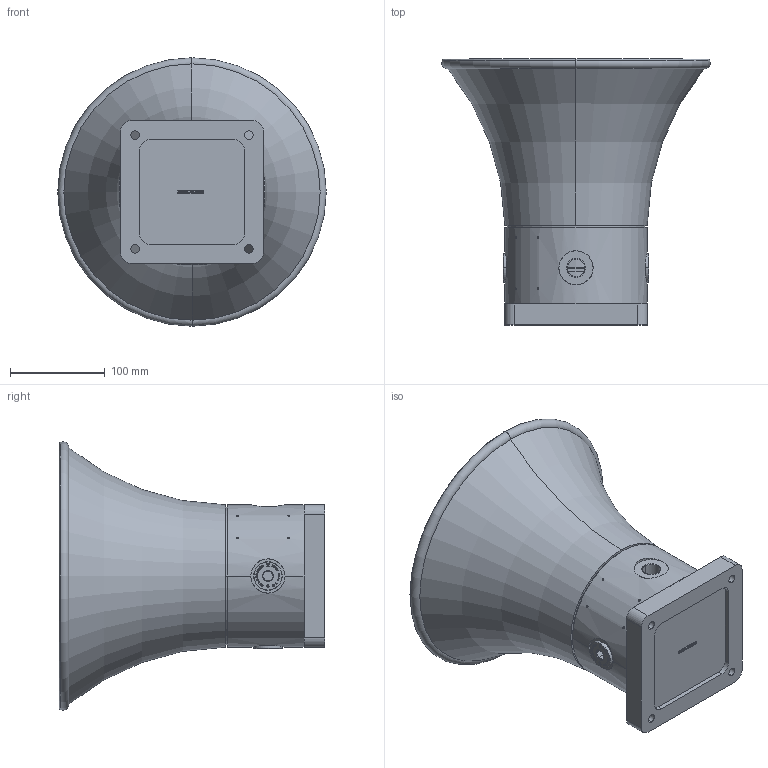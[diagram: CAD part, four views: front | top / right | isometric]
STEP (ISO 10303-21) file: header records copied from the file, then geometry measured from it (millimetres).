
FILE_DESCRIPTION((''),'2;1');
FILE_NAME('0-SD150-W_ASM','2015-12-21T',('Administrator'),(''),'PRO/ENGINEER BY PARAMETRIC TECHNOLOGY CORPORATION, 2008090','PRO/ENGINEER BY PARAMETRIC TECHNOLOGY CORPORATION, 2008090','');
FILE_SCHEMA(('CONFIG_CONTROL_DESIGN'));
Length unit declared in the file: millimetre
Products named in the file (21): 55060250101; 55050250104; 50050250106; 50050250105; 50500280237; 55100110920; M4-15; 50000010301-M5; UPPER-CASE; BASE-COVER; ASM0001_ASM; 50060120606; TEMINAL-4; NEW-SOUNDER-PCB-PLAT; SWITCH-A; SWITCH-B; SWITCH-C; SWITCH-D; NEW-SOUNDER-PCB_ASM; NEW-LOGO; 0-SD150-W_ASM
Assembly tree (32 placements, depth 3):
  0-SD150-W_ASM
    55060250101
    55050250104
    50050250106
    50050250105
    50500280237
    55100110920  x3
    M4-15  x3
    50000010301-M5  x6
    ASM0001_ASM
      UPPER-CASE
      BASE-COVER
    NEW-SOUNDER-PCB_ASM
      50060120606
      TEMINAL-4
      NEW-SOUNDER-PCB-PLAT
      SWITCH-A
      SWITCH-B
      SWITCH-C
      SWITCH-D  x4
    NEW-LOGO
Bounding box: 282.76 x 280 x 282.76 mm (x, y, z)
Volume: 2477549.2 mm3; surface area: 645180.5 mm2
Topology: 30 solids, 73 shells, 8434 faces, 23246 edges, 15356 vertices
Faces by surface type: plane 6979, cylinder 718, torus 323, cone 318, bspline 79, sphere 17
Entity records: 192519 total; most frequent: CARTESIAN_POINT 44606, ORIENTED_EDGE 31860, DIRECTION 28394, EDGE_CURVE 15998, VECTOR 12828, LINE 12828, VERTEX_POINT 10566, AXIS2_PLACEMENT_3D 7783
